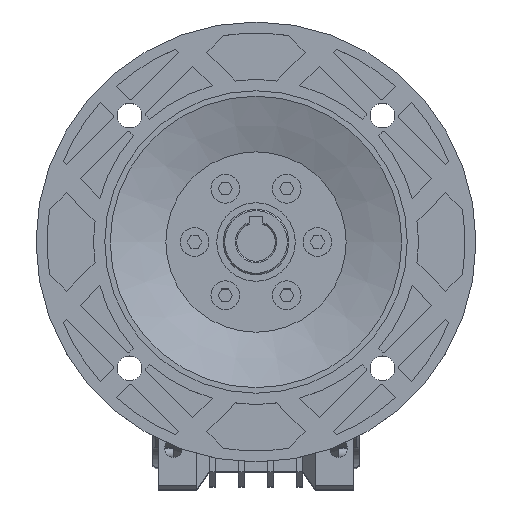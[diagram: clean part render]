
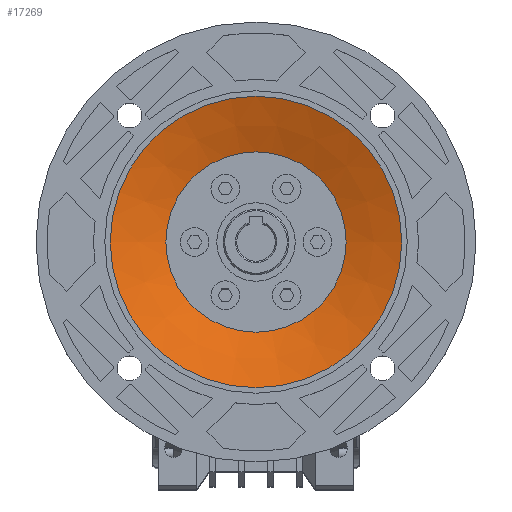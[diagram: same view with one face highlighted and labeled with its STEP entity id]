
A CAD part, top view. The second image highlights one B-rep face of the part: STEP entity #17269.
In plain terms, the highlighted conical face has half-angle 70.638 degrees and reference radius 32.795 mm.
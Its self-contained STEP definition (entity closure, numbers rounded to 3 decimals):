
#55=CONICAL_SURFACE('',#18864,32.795,1.233);
#1704=LINE('',#28863,#3267);
#3267=VECTOR('',#23529,32.795);
#4646=FACE_OUTER_BOUND('',#5680,.T.);
#5680=EDGE_LOOP('',(#14825,#14826,#14827,#14828));
#6332=CIRCLE('',#18851,53.);
#6339=CIRCLE('',#18865,32.795);
#7868=VERTEX_POINT('',#28835);
#7875=VERTEX_POINT('',#28861);
#10196=EDGE_CURVE('',#7868,#7868,#6332,.T.);
#10208=EDGE_CURVE('',#7875,#7875,#6339,.T.);
#10209=EDGE_CURVE('',#7875,#7868,#1704,.T.);
#14825=ORIENTED_EDGE('',*,*,#10208,.T.);
#14826=ORIENTED_EDGE('',*,*,#10209,.T.);
#14827=ORIENTED_EDGE('',*,*,#10196,.F.);
#14828=ORIENTED_EDGE('',*,*,#10209,.F.);
#17269=ADVANCED_FACE('',(#4646),#55,.F.);
#18851=AXIS2_PLACEMENT_3D('',#28836,#23494,#23495);
#18864=AXIS2_PLACEMENT_3D('',#28860,#23525,#23526);
#18865=AXIS2_PLACEMENT_3D('',#28862,#23527,#23528);
#23494=DIRECTION('center_axis',(0.,0.,
-1.));
#23495=DIRECTION('ref_axis',(-1.,0.,0.));
#23525=DIRECTION('center_axis',(0.,0.,
1.));
#23526=DIRECTION('ref_axis',(1.,0.,0.));
#23527=DIRECTION('center_axis',(0.,0.,
-1.));
#23528=DIRECTION('ref_axis',(-1.,0.,0.));
#23529=DIRECTION('',(-0.943,0.,0.332));
#28835=CARTESIAN_POINT('',(-53.,40.,67.1));
#28836=CARTESIAN_POINT('Origin',(0.,40.,
67.1));
#28860=CARTESIAN_POINT('Origin',(0.,40.,
60.));
#28861=CARTESIAN_POINT('',(-32.795,40.,60.));
#28862=CARTESIAN_POINT('Origin',(0.,40.,
60.));
#28863=CARTESIAN_POINT('',(-32.795,40.,60.));
